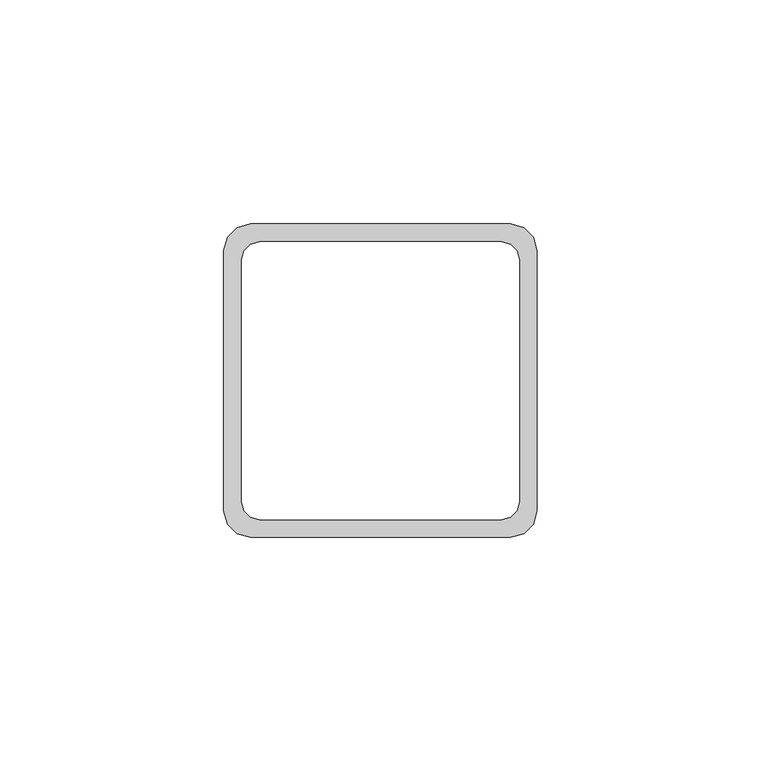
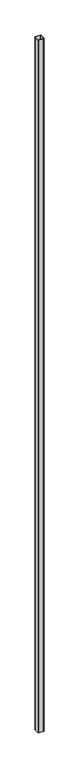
"""IFC4 building model written with IfcOpenShell, lengths in millimetres: beam geometry,  163445 :  163445."""

from ifc_helpers import new_model, si_unit, origin, origin_with_axes, place, context, project, spatial, polyline, outline, extrude, source, transform, mapped, element, save


def beam_2ee75d21(model_context):
    return source(origin(), model_context, "Body", "SweptSolid", [
        extrude(outline(polyline([(22.8791579, 89.0), (23.6830055, 92.0), (25.8791579, 94.1961524), (28.8791579, 95.0), (86.8791579, 95.0), (89.8791579, 94.1961524), (92.0753103, 92.0), (92.8791579, 89.0), (92.8791579, 31.0), (92.0753103, 28.0), (89.8791579, 25.8038476), (86.8791579, 25.0), (28.8791579, 25.0), (25.8791579, 25.8038476), (23.6830055, 28.0), (22.8791579, 31.0), (22.8791579, 89.0)]), holes=[polyline([(26.8791579, 33.0), (27.4150563, 31.0), (28.8791579, 29.5358984), (30.8791579, 29.0), (84.8791579, 29.0), (86.8791579, 29.5358984), (88.3432595, 31.0), (88.8791579, 33.0), (88.8791579, 87.0), (88.3432595, 89.0), (86.8791579, 90.4641016), (84.8791579, 91.0), (30.8791579, 91.0), (28.8791579, 90.4641016), (27.4150563, 89.0), (26.8791579, 87.0), (26.8791579, 33.0)])]), origin_with_axes(), (0.0, 0.0, 1.0), 8450.0),
    ])


if __name__ == "__main__":
    model = new_model("IFC4")
    model_context = context("Model", 3, world=origin())
    ifc_project = project(units=[si_unit("LENGTHUNIT", "METRE", prefix="MILLI")], contexts=[model_context])
    site = spatial("IfcSite", under=ifc_project)
    building = spatial("IfcBuilding", under=site)
    placement = place(None, origin())
    beam_shape = beam_2ee75d21(model_context)
    element("IfcBeam", 1, ObjectType=" 163445 :  163445", at=placement, inside=building, context=model_context, shape_type="MappedRepresentation", body=[
        mapped(beam_shape, transform((0.0, 0.0, 0.0), x_axis=(1.0, 0.0, 0.0), y_axis=(0.0, 1.0, 0.0), z_axis=(0.0, 0.0, 1.0))),
    ])
    save(model, "model.ifc")
